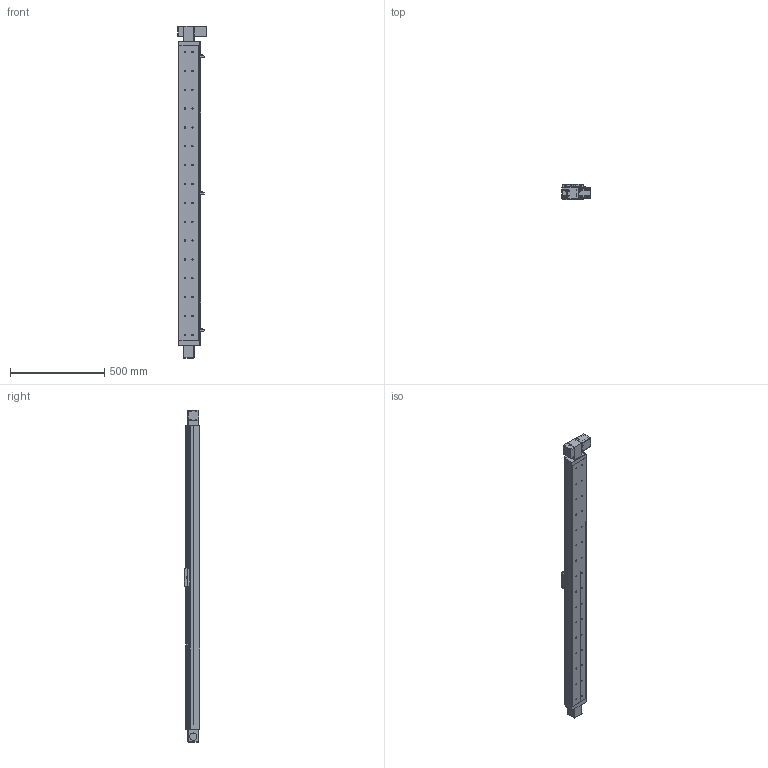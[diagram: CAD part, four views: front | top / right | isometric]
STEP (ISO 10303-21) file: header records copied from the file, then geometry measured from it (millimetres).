
FILE_DESCRIPTION((''),'2;1');
FILE_NAME('E:\uia actuator\UIA actuator 3d- 2015\Belt drive actuator\UIA110BR12(15)DC\UIA110BR12(15)DC-STEP FILE\UIA110BR12(15) stp file 13May16\UIA110BR12(15)DC-1450-M23-P13-C10-S.stp','2016-05-16T09:43:47',('h029'),(''),'Autodesk Inventor 11','Autodesk Inventor 11','');
FILE_SCHEMA(('AUTOMOTIVE_DESIGN { 1 0 10303 214 1 1 1 1 }'));
Length unit declared in the file: millimetre
Products named in the file (11): UIA110BR12(15)DC-1450; UIA110BR12(15)DC-1450-body; UIA110BR12(15)DC-1450-Sensor rail; UIA110B-Carriage; UIA110B- Sensor Flag; UIA110B-Cover; SOH-32C; SOH-32C-3; SOH-32C-1; SOH-32C-2; Motor mount
Assembly tree (10 placements, depth 3):
  UIA110BR12(15)DC-1450
    UIA110BR12(15)DC-1450-body
    UIA110BR12(15)DC-1450-Sensor rail
    UIA110B-Carriage
    UIA110B- Sensor Flag
    UIA110B-Cover
    SOH-32C
      SOH-32C-3
      SOH-32C-1
      SOH-32C-2
    Motor mount
Bounding box: 152 x 81 x 1761 mm (x, y, z)
Volume: 5066039.9 mm3; surface area: 1514297.3 mm2
Topology: 9 solids, 13 shells, 804 faces, 2266 edges, 1444 vertices
Faces by surface type: plane 495, cylinder 219, cone 42, bspline 40, sphere 8
Full cylindrical faces by diameter (mm): 2.459 x4, 3 x2, 3.242 x8, 3.5 x4, 4 x10, 4.5 x4, 4.917 x8, 5 x2, 6.35 x1, 6.5 x32, 7.5 x4, 10 x3, 11 x32, 12 x1, 20 x2, 32 x3, 37 x1, 38.1 x1, 39 x2, 43.5 x1, 46 x2
Entity records: 27418 total; most frequent: CARTESIAN_POINT 7345, DIRECTION 4107, ORIENTED_EDGE 3894, EDGE_CURVE 1947, AXIS2_PLACEMENT_3D 1432, VERTEX_POINT 1336, VECTOR 1243, LINE 1243
